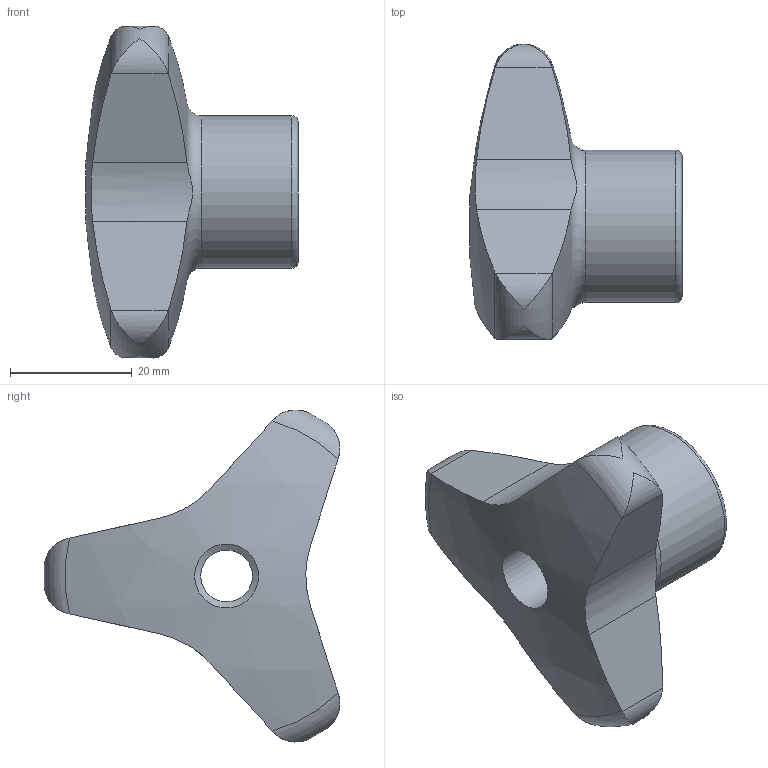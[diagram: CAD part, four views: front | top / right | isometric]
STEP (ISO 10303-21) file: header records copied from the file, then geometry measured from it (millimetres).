
FILE_DESCRIPTION (( 'STEP AP214' ), '1' );
FILE_NAME ('5345-60-M10-D.step', '2022-04-27T05:37:41', ( '' ), ( '' ), 'SwSTEP 2.0', 'SolidWorks 2019', '' );
FILE_SCHEMA (( 'AUTOMOTIVE_DESIGN' ));
Length unit declared in the file: millimetre
Products named in the file (1): 5345-60-M10-D
Bounding box: 34.84 x 48.56 x 54.52 mm (x, y, z)
Volume: 25193.9 mm3; surface area: 6886.8 mm2
Topology: 1 solids, 1 shells, 29 faces, 83 edges, 56 vertices
Faces by surface type: cylinder 12, plane 7, torus 5, sphere 4, cone 1
Full cylindrical faces by diameter (mm): 8.5 x1, 10.5 x1, 25 x1
Entity records: 1235 total; most frequent: CARTESIAN_POINT 497, ORIENTED_EDGE 152, DIRECTION 128, EDGE_CURVE 76, AXIS2_PLACEMENT_3D 58, VERTEX_POINT 55, EDGE_LOOP 37, B_SPLINE_CURVE_WITH_KNOTS 36
